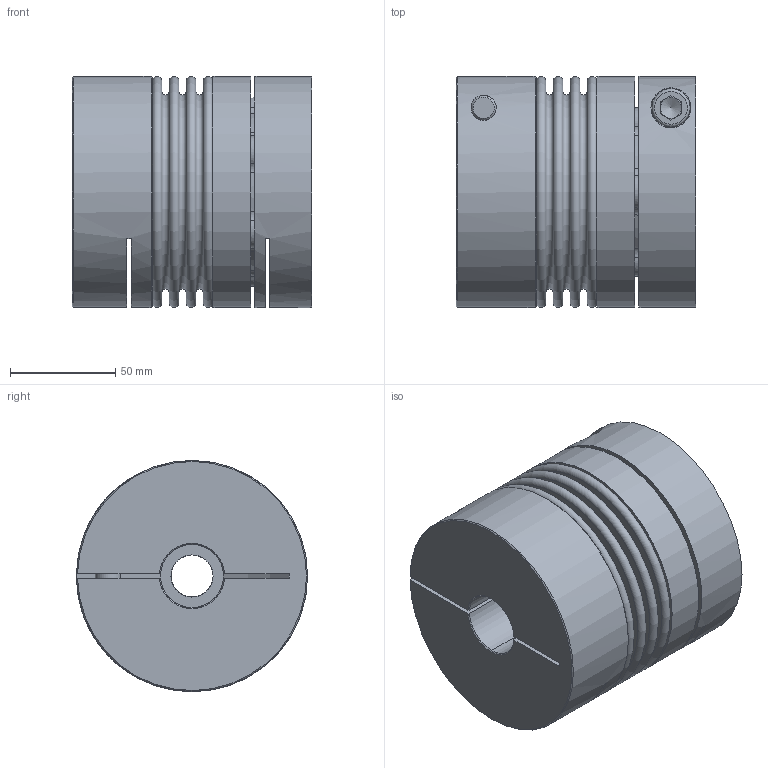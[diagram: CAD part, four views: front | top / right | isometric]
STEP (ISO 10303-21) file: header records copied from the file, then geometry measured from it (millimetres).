
FILE_DESCRIPTION( ( 'Unknown' ), '1' );
FILE_NAME( 'C:/Users/skarpstein/Desktop/KB4P/KB4P/KB4P-300-114.stp', 'Unknown', ( 'Unknown' ), ( 'Unknown' ), 'PSStep 16.0.42', 'Unknown', ' ' );
FILE_SCHEMA( ( 'AUTOMOTIVE_DESIGN { 1 0 10303 214 1 1 1 1 }' ) );
Length unit declared in the file: millimetre
Products named in the file (6): Assem1; BK300_Standard_0; KN300_Standard_1; Socket Head Cap Screw_DIN_DIN 912 M12 x 40 --- 40N; Stecknabe KB4P-300; Balgaufnahme KB4P-300
Assembly tree (6 placements, depth 2):
  Assem1
    BK300_Standard_0
    KN300_Standard_1
    Socket Head Cap Screw_DIN_DIN 912 M12 x 40 --- 40N  x2
    Stecknabe KB4P-300
    Balgaufnahme KB4P-300
Bounding box: 113.95 x 110 x 110 mm (x, y, z)
Volume: 744181.3 mm3; surface area: 182112.2 mm2
Topology: 6 solids, 6 shells, 168 faces, 394 edges, 257 vertices
Faces by surface type: plane 69, cone 56, cylinder 25, torus 18
Full cylindrical faces by diameter (mm): 10.106 x1, 12 x3, 12.5 x2, 18 x2, 19 x2, 20 x1, 30 x1, 99.8 x2, 101 x2, 110 x3
Entity records: 5697 total; most frequent: CARTESIAN_POINT 1055, DIRECTION 776, ORIENTED_EDGE 598, AXIS2_PLACEMENT_3D 337, EDGE_CURVE 299, VERTEX_POINT 227, EDGE_LOOP 215, CIRCLE 185
